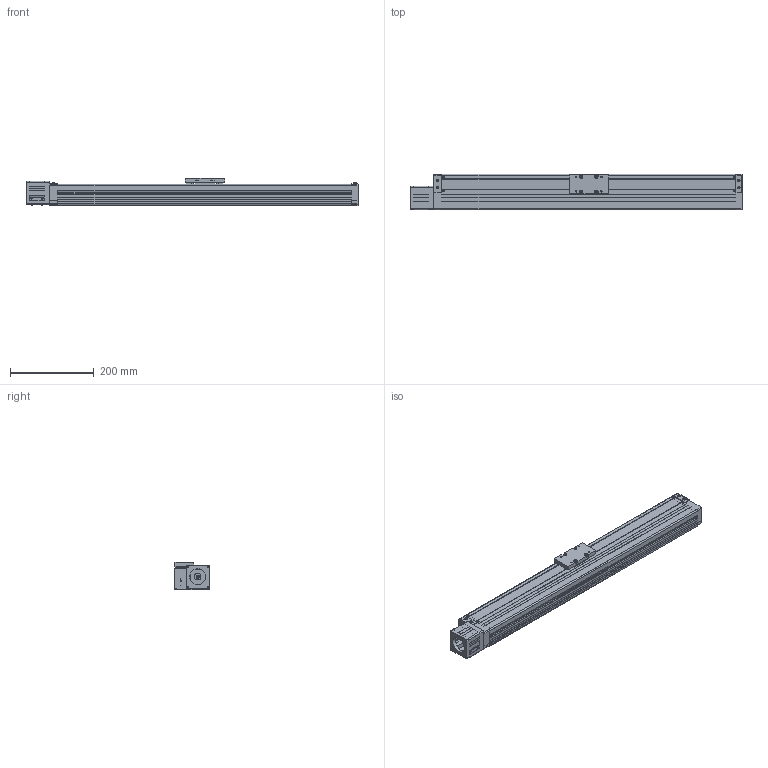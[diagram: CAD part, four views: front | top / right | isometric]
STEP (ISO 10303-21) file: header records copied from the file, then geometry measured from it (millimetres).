
FILE_DESCRIPTION((''),'2;1');
FILE_NAME('D:\製品 (図面)\カタログ用3D\SU部品\SU85×65\ダウンロード用\SU85×65-MB56\SU85×65-600-MB56.stp','2011-07-01T17:25:11',('Tsuchiya'),(''),'Autodesk Inventor 10','Autodesk Inventor 10','');
FILE_SCHEMA(('AUTOMOTIVE_DESIGN { 1 0 10303 214 1 1 1 1 }'));
Length unit declared in the file: millimetre
Products named in the file (3): SU85×65-600-MB56; SU85×65-600-MB561; SU85×65-600-MB562
Assembly tree (2 placements, depth 2):
  SU85×65-600-MB56
    SU85×65-600-MB561
    SU85×65-600-MB562
Bounding box: 791 x 85 x 65 mm (x, y, z)
Volume: 1420286.7 mm3; surface area: 496393.3 mm2
Topology: 8 solids, 8 shells, 851 faces, 2240 edges, 1450 vertices
Faces by surface type: plane 713, cylinder 106, cone 16, torus 12, bspline 4
Full cylindrical faces by diameter (mm): 3.242 x8, 4 x4, 4.134 x16, 4.5 x4, 5.5 x4, 6 x1, 7 x4, 8 x1, 11.5 x1, 12 x1, 13 x1, 38.1 x1, 43 x1
Entity records: 26014 total; most frequent: CARTESIAN_POINT 5215, ORIENTED_EDGE 4264, DIRECTION 4080, EDGE_CURVE 2132, VECTOR 1712, LINE 1712, VERTEX_POINT 1421, AXIS2_PLACEMENT_3D 1184
